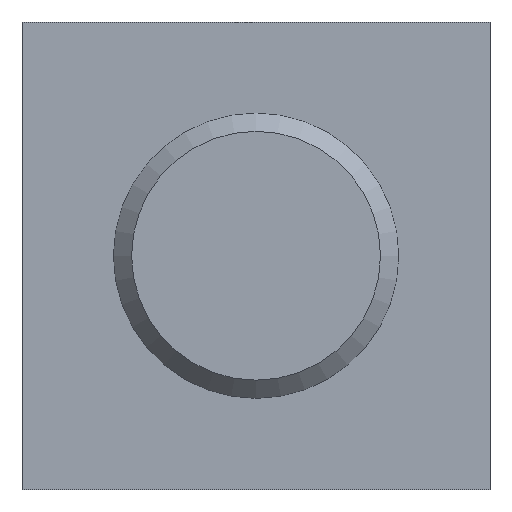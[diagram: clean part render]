
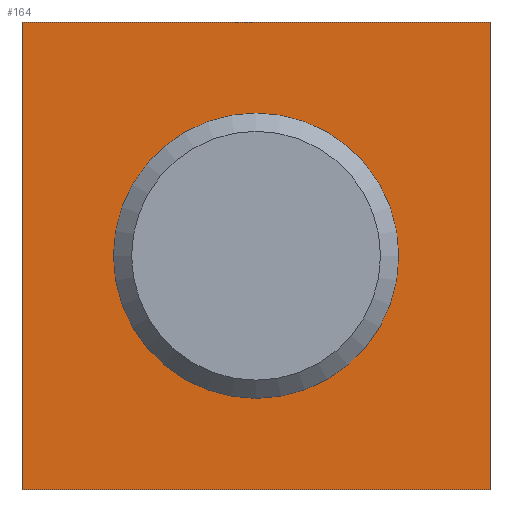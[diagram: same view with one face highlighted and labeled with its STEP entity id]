
A CAD part, top view. The second image highlights one B-rep face of the part: STEP entity #164.
In plain terms, the highlighted planar face has unit normal (0, 0, 1).
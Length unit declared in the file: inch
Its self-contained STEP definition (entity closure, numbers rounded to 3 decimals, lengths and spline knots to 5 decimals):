
#26=CARTESIAN_POINT('',(0.35388,-0.57949,0.9));
#27=VERTEX_POINT('',#26);
#42=CARTESIAN_POINT('',(0.35388,-1.221,0.9));
#43=VERTEX_POINT('',#42);
#50=CARTESIAN_POINT('',(0.35388,0.93262,0.9));
#51=DIRECTION('',(0.,-1.,0.));
#52=VECTOR('',#51,1.);
#53=LINE('',#50,#52);
#54=EDGE_CURVE('',#27,#43,#53,.T.);
#64=CARTESIAN_POINT('',(0.996,-0.57949,0.9));
#65=VERTEX_POINT('',#64);
#66=CARTESIAN_POINT('',(2.82728,-0.57949,0.9));
#67=DIRECTION('',(-1.,0.,0.));
#68=VECTOR('',#67,1.);
#69=LINE('',#66,#68);
#70=EDGE_CURVE('',#65,#27,#69,.T.);
#130=ORIENTED_EDGE('',*,*,#54,.T.);
#131=CARTESIAN_POINT('',(0.996,-1.221,0.9));
#132=VERTEX_POINT('',#131);
#133=CARTESIAN_POINT('',(0.063,-1.221,0.9));
#134=DIRECTION('',(1.,0.,0.));
#135=VECTOR('',#134,0.824);
#136=LINE('',#133,#135);
#137=EDGE_CURVE('',#43,#132,#136,.T.);
#138=ORIENTED_EDGE('',*,*,#137,.T.);
#139=CARTESIAN_POINT('',(0.996,-1.137,0.9));
#140=DIRECTION('',(0.,1.,0.));
#141=VECTOR('',#140,0.874);
#142=LINE('',#139,#141);
#143=EDGE_CURVE('',#132,#65,#142,.T.);
#144=ORIENTED_EDGE('',*,*,#143,.T.);
#145=ORIENTED_EDGE('',*,*,#70,.T.);
#146=EDGE_LOOP('',(#130,#138,#144,#145));
#147=FACE_OUTER_BOUND('',#146,.T.);
#148=CARTESIAN_POINT('',(0.675,-1.09571,0.9));
#149=VERTEX_POINT('',#148);
#150=CARTESIAN_POINT('',(0.675,-0.9,0.9));
#151=DIRECTION('',(0.,0.,1.));
#152=DIRECTION('',(0.,-1.,0.));
#153=AXIS2_PLACEMENT_3D('',#150,#151,#152);
#154=CIRCLE('',#153,0.19571);
#155=EDGE_CURVE('',#149,#149,#154,.T.);
#156=ORIENTED_EDGE('',*,*,#155,.F.);
#157=EDGE_LOOP('',(#156));
#158=FACE_BOUND('',#157,.T.);
#159=CARTESIAN_POINT('',(0.85,0.,0.9));
#160=DIRECTION('',(0.,0.,1.));
#161=DIRECTION('',(0.,1.,0.));
#162=AXIS2_PLACEMENT_3D('',#159,#160,#161);
#163=PLANE('',#162);
#164=ADVANCED_FACE('',(#147,#158),#163,.T.);
